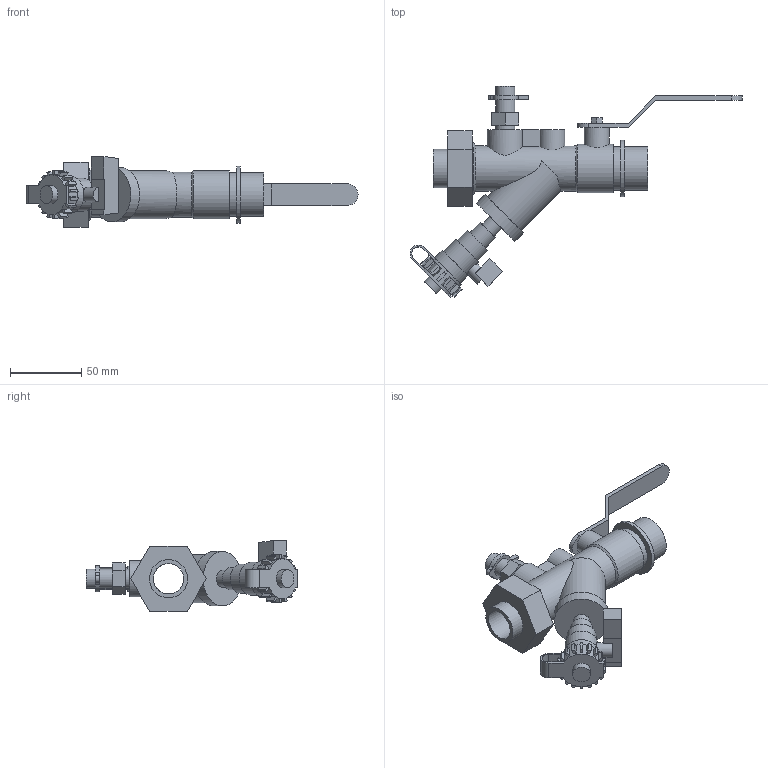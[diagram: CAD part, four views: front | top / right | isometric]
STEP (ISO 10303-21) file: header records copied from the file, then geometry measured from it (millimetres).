
FILE_DESCRIPTION(/* description */ ('VIC Y-STRAINER/BALL SERIES 78Y (FPT)','CAx-IF Rec.Pracs.---Representation and Presentation of Product Manufacturing Information (PMI)---4.0---2014-10-13'),/* implementation_level */ '2;1');
FILE_NAME(/* name */ 'C:\Users\kkamble\Desktop\extraction\OldVersions\Victaulic_IPS_Valve Ball Y Strainer Combination_Series 78Y (FPT)\Victaulic_IPS_Valve Ball Y Strainer Combination_Series 78Y (FPT)_0.75x0.50 (20x15).stp',/* time_stamp */ '2020-10-19T10:38:35+05:00',/* author */ ('kkamble'),/* organization */ ('Victaulic'),/* preprocessor_version */ 'ST-DEVELOPER v17.2',/* originating_system */ 'Autodesk Inventor 2019',/* authorisation */ '');
FILE_SCHEMA (('AP242_MANAGED_MODEL_BASED_3D_ENGINEERING_MIM_LF { 1 0 10303 442 1 1 4 }'));
Length unit declared in the file: inch
Products named in the file (1): 78Y-0.75x0.5
Bounding box: 232.24 x 148.18 x 49.53 mm (x, y, z)
Volume: 129091.7 mm3; surface area: 61768.7 mm2
Topology: 2 solids, 3 shells, 235 faces, 594 edges, 399 vertices
Faces by surface type: plane 168, cylinder 65, cone 2
Full cylindrical faces by diameter (mm): 10.16 x1, 10.998 x1, 11.887 x1, 12.565 x1, 13.462 x5, 15.24 x1, 17.272 x1, 20.32 x1, 21.336 x2, 22.86 x1, 25.4 x1, 26.67 x2, 26.695 x1, 27.94 x1, 30.48 x2, 31.496 x1, 33.528 x1, 33.782 x1, 36.068 x1, 38.1 x1, 39.624 x1
Entity records: 8001 total; most frequent: CARTESIAN_POINT 1920, DIRECTION 1257, ORIENTED_EDGE 1188, EDGE_CURVE 594, AXIS2_PLACEMENT_3D 449, VERTEX_POINT 399, LINE 359, VECTOR 359
